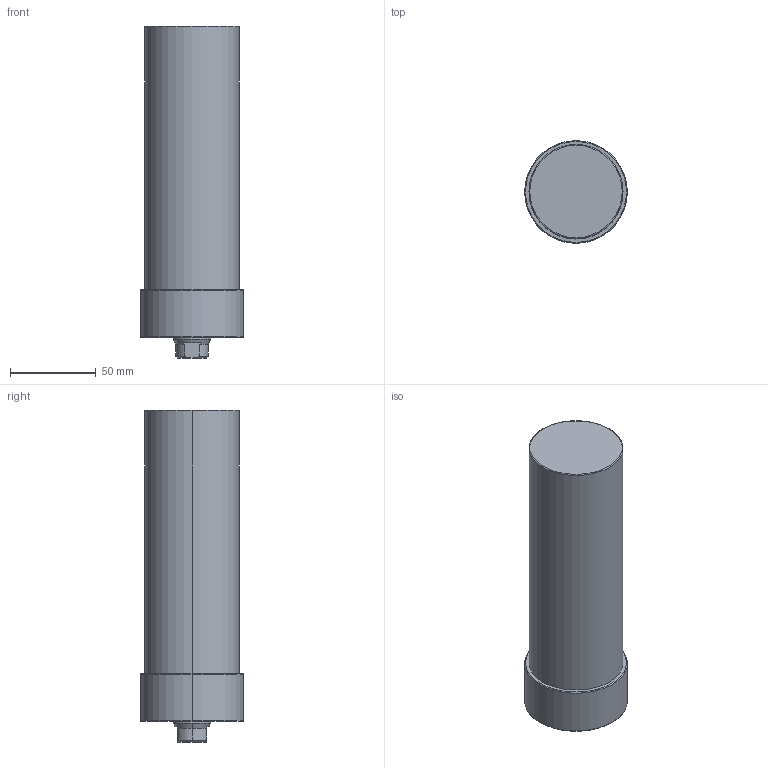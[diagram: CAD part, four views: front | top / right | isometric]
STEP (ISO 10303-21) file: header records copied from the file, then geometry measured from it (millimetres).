
FILE_DESCRIPTION (( 'STEP AP203' ), '1' );
FILE_NAME ('CLLU-055GA-125.STEP', '2020-01-06T07:09:09', ( '' ), ( '' ), 'SwSTEP 2.0', 'SolidWorks 2015', '' );
FILE_SCHEMA (( 'CONFIG_CONTROL_DESIGN' ));
Length unit declared in the file: millimetre
Products named in the file (1): CLLU-055GA-125
Bounding box: 60 x 60 x 194 mm (x, y, z)
Volume: 445378.8 mm3; surface area: 39931.9 mm2
Topology: 1 solids, 1 shells, 64 faces, 143 edges, 80 vertices
Faces by surface type: cone 25, cylinder 23, plane 10, torus 6
Entity records: 1805 total; most frequent: DIRECTION 330, CARTESIAN_POINT 318, ORIENTED_EDGE 266, AXIS2_PLACEMENT_3D 140, EDGE_CURVE 133, VERTEX_POINT 80, CIRCLE 75, EDGE_LOOP 73
